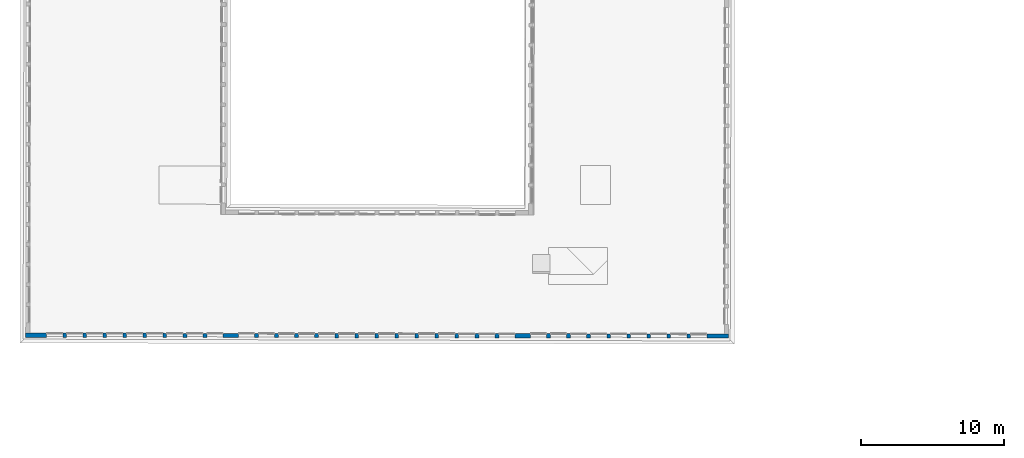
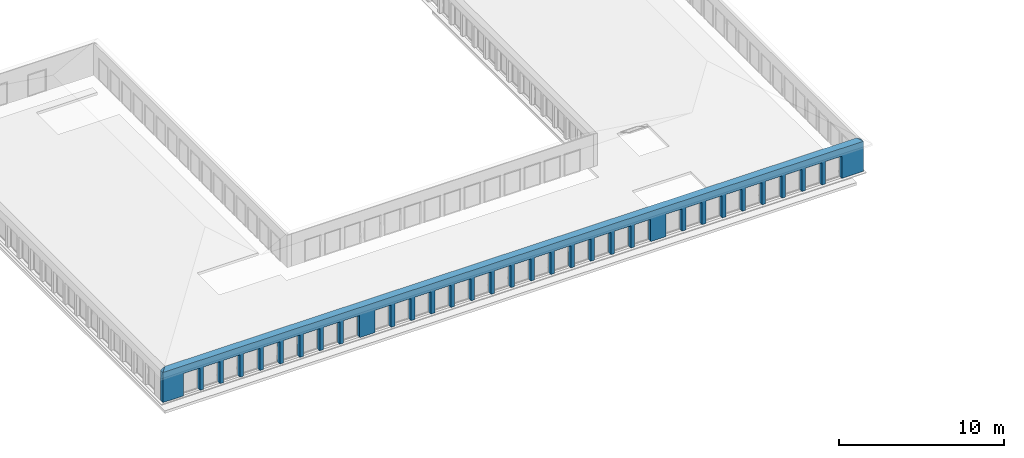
# One storey, part 25 of 26: 1 wall.
"""IFC2X3 building model written with IfcOpenShell, lengths in metres."""

from ifc_helpers import new_model, entity, si_unit, converted_unit, derived_unit, direction, frame, origin, place, context, subcontext, project, spatial, faceted_brep, material, layer, layer_set, type_object, element, save


model = new_model("IFC2X3")

# Units and contexts
model_context = context("Model", 3, precision=1e-05, world=origin(), true_north=direction((6.123233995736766e-17, 1.0)))
body_context = subcontext(model_context, "Body", "Model", "MODEL_VIEW")
ifc_project = project(units=[si_unit("LENGTHUNIT", "METRE"), si_unit("AREAUNIT", "SQUARE_METRE"), converted_unit("PLANEANGLEUNIT", "DEGREE", entity("IfcPlaneAngleMeasure", 0.017453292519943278), si_unit("PLANEANGLEUNIT", "RADIAN"), dimensions=[0, 0, 0, 0, 0, 0, 0]), derived_unit("THERMALTRANSMITTANCEUNIT", [(si_unit("MASSUNIT", "GRAM", prefix="KILO"), 1), (si_unit("THERMODYNAMICTEMPERATUREUNIT", "KELVIN"), -1), (si_unit("TIMEUNIT", "SECOND"), -3)])], contexts=[model_context])

# Site, building, storey
site_placement = place(None, frame((1253.6752467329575, 2072.143113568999, 91.49999999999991), z_axis=(0.0, 0.0, 1.0), x_axis=(0.7237211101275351, 0.6900925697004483, 0.0)))
site = spatial("IfcSite", under=ifc_project, at=site_placement, Name="Surface", CompositionType="ELEMENT")
building_placement = place(site_placement, origin())
building = spatial("IfcBuilding", under=site, at=building_placement, CompositionType="ELEMENT")
storey_placement = place(building_placement, frame((0.0, 0.0, 7.0)))
storey = spatial("IfcBuildingStorey", under=building, at=storey_placement, Name="2-R+2", CompositionType="ELEMENT", Elevation=6.999999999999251)

# Wall
ifc_material = material(Name="OMD_Béton blanc")
ifc_layer = layer(ifc_material, 0.29999999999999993)
ifc_layer_set = layer_set([ifc_layer], Name="Mur de base:MUR 30")
wall_type = type_object("IfcWallType", Name="Mur de base:MUR 30", PredefinedType="STANDARD", material=ifc_layer_set)
wall_placement = place(storey_placement, frame((179.40471630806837, -29.55080083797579, 0.9000000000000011), z_axis=(0.0, 0.0, 1.0), x_axis=(-0.7228702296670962, 0.6909838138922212, 0.0)))
element("IfcWall", 1, at=wall_placement, inside=storey, type_object=wall_type, Name="Mur de base:MUR 30", ObjectType="Mur de base:MUR 30", context=body_context, shape_type="Brep", body=[
    faceted_brep([(0.0, -0.15000000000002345, 2.2322075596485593), (0.0, -0.15000000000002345, 0.0), (0.29999999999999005, -0.1500000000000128, 0.0), (1.5100634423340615, -0.15000000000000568, 0.0), (1.5100634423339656, -0.1500000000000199, 1.6499999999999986), (2.6500634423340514, -0.15000000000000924, 1.6499999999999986), (2.650063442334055, -0.1500000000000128, 0.0), (2.9100621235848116, -0.150000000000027, 0.0), (2.910062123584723, -0.15000000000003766, 1.6499999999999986), (4.05006212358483, -0.15000000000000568, 1.6499999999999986), (4.050062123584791, -0.15000000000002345, 0.0), (4.310060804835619, -0.15000000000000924, 0.0), (4.310060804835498, -0.15000000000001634, 1.6499999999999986), (5.45006080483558, -0.15000000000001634, 1.6499999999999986), (5.450060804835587, -0.1500000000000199, 0.0), (5.710059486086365, -0.14999999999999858, 0.0), (5.710059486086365, -0.14999999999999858, 1.6499999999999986), (6.850059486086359, -0.15000000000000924, 1.6499999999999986), (6.850059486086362, -0.1500000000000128, 0.0), (7.110058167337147, -0.1500000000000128, 0.0), (7.110058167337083, -0.1500000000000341, 1.6499999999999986), (8.250058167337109, -0.1500000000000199, 1.6499999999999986), (8.250058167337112, -0.1500000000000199, 0.0), (8.51005684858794, -0.15000000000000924, 0.0), (8.510056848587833, -0.150000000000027, 1.6499999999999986), (9.650056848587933, -0.15000000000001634, 1.6499999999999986), (9.650056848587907, -0.1500000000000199, 0.0), (9.910055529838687, -0.1500000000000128, 0.0), (9.910055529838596, -0.1500000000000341, 1.6499999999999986), (11.050055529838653, -0.15000000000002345, 1.6499999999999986), (11.050055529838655, -0.15000000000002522, 0.0), (11.310266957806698, -0.15000000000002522, 0.0), (11.310266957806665, -0.15000000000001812, 1.6499999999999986), (12.450266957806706, -0.1500000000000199, 1.6499999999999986), (12.450266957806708, -0.15000000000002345, 0.0), (12.71026563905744, -0.15000000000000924, 0.0), (12.710265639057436, -0.15000000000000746, 1.6499999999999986), (13.850265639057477, -0.15000000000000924, 1.6499999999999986), (13.85026563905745, -0.15000000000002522, 0.0), (14.910284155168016, -0.15000000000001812, 0.0), (14.910284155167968, -0.15000000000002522, 1.6499999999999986), (16.050284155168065, -0.15000000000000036, 1.6499999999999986), (16.050284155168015, -0.15000000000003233, 0.0), (16.310289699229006, -0.15000000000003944, 0.0), (16.31028969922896, -0.15000000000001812, 1.6499999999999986), (17.450289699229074, -0.1500000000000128, 1.6499999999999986), (17.45028969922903, -0.15000000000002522, 0.0), (17.71028838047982, -0.1500000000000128, 0.0), (17.710288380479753, -0.15000000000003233, 1.6499999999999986), (18.850288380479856, -0.15000000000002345, 1.6499999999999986), (18.85028838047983, -0.15000000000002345, 0.0), (19.110287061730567, -0.15000000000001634, 0.0), (19.11028706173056, -0.15000000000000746, 1.6499999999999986), (20.250287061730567, -0.1500000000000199, 1.6499999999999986), (20.250287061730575, -0.15000000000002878, 0.0), (20.51028574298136, -0.15000000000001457, 0.0), (20.510285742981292, -0.15000000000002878, 1.6499999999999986), (21.650285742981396, -0.15000000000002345, 1.6499999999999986), (21.650285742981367, -0.15000000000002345, 0.0), (21.910298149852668, -0.15000000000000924, 0.0), (21.910298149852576, -0.15000000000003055, 1.6499999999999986), (23.05029814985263, -0.15000000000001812, 1.6499999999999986), (23.050298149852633, -0.15000000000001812, 0.0), (23.31029683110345, -0.15000000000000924, 0.0), (23.310296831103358, -0.1500000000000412, 1.6499999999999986), (24.450296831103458, -0.15000000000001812, 1.6499999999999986), (24.45029683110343, -0.15000000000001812, 0.0), (24.710295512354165, -0.15000000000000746, 0.0), (24.710295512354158, -0.1500000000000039, 1.6499999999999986), (25.850295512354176, -0.15000000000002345, 1.6499999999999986), (25.850295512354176, -0.15000000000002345, 0.0), (26.110294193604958, -0.1500000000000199, 0.0), (26.11029419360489, -0.15000000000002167, 1.6499999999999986), (27.250294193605, -0.15000000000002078, 1.6499999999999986), (27.250294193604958, -0.15000000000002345, 0.0), (27.510292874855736, -0.15000000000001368, 0.0), (27.5102928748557, -0.1500000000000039, 1.6499999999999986), (28.650292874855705, -0.1500000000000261, 1.6499999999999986), (28.650292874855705, -0.1500000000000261, 0.0), (28.91030528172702, -0.1500000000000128, 0.0), (28.910305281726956, -0.15000000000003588, 1.6499999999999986), (30.050305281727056, -0.1500000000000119, 1.6499999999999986), (30.050305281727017, -0.150000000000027, 0.0), (30.310303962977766, -0.150000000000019, 0.0), (30.3103039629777, -0.15000000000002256, 1.6499999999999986), (31.450303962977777, -0.15000000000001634, 1.6499999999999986), (31.450303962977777, -0.15000000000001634, 0.0), (31.710302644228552, -0.15000000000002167, 0.0), (31.71030264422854, -0.15000000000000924, 1.6499999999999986), (32.85030264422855, -0.15000000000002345, 1.6499999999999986), (32.85030264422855, -0.1500000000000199, 0.0), (33.11030132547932, -0.15000000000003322, 0.0), (33.11030132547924, -0.15000000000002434, 1.6499999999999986), (34.25030132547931, -0.15000000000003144, 1.6499999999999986), (34.2503013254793, -0.15000000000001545, 0.0), (35.31029925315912, -0.150000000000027, 0.0), (35.310299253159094, -0.15000000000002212, 1.6499999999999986), (36.450299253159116, -0.15000000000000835, 1.6499999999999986), (36.4502992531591, -0.15000000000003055, 0.0), (36.71029793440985, -0.15000000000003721, 0.0), (36.71029793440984, -0.1500000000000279, 1.6499999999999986), (37.850297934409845, -0.150000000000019, 1.6499999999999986), (37.85029793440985, -0.15000000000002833, 0.0), (38.110296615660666, -0.15000000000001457, 0.0), (38.11029661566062, -0.1500000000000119, 1.6499999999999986), (39.25029661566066, -0.15000000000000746, 1.6499999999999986), (39.25029661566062, -0.15000000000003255, 0.0), (39.51030902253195, -0.15000000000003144, 0.0), (39.51030902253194, -0.150000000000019, 1.6499999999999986), (40.650309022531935, -0.15000000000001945, 1.6499999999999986), (40.650309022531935, -0.15000000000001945, 0.0), (40.91030770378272, -0.15000000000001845, 0.0), (40.9103077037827, -0.15000000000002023, 1.6499999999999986), (42.050307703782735, -0.15000000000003, 1.6499999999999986), (42.050307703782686, -0.1500000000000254, 0.0), (42.31032011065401, -0.15000000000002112, 0.0), (42.310320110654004, -0.15000000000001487, 1.6499999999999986), (43.45032011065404, -0.15000000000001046, 1.6499999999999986), (43.450320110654, -0.1500000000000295, 0.0), (43.71031879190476, -0.15000000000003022, 0.0), (43.71031879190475, -0.15000000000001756, 1.6499999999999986), (44.850318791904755, -0.150000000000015, 1.6499999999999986), (44.850318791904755, -0.150000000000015, 0.0), (45.11031747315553, -0.15000000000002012, 0.0), (45.11031747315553, -0.15000000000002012, 1.6499999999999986), (46.250317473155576, -0.15000000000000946, 1.6499999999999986), (46.25031747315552, -0.15000000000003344, 0.0), (46.51031615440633, -0.15000000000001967, 0.0), (46.5103161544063, -0.15000000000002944, 1.6499999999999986), (47.65031615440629, -0.15000000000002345, 1.6499999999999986), (47.65031615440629, -0.15000000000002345, 0.0), (48.79855988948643, -0.15000000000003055, 0.0), (49.09855989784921, -0.150000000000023, 0.0), (49.09855989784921, -0.150000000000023, 2.232207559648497), (48.79855988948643, -0.15000000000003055, 2.4065314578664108), (0.29999999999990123, -0.1500000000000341, 2.406531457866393), (0.0, 0.14999999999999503, 2.2322075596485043), (49.098630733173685, 0.14999999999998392, 2.2322075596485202), (49.09863073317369, 0.14999999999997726, 0.0), (47.65031615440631, 0.14999999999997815, 0.0), (47.650316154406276, 0.14999999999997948, 1.6499999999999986), (46.51031615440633, 0.14999999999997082, 1.6500000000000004), (46.510316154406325, 0.14999999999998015, 0.0), (46.250317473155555, 0.14999999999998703, 0.0), (46.250317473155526, 0.1499999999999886, 1.6499999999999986), (45.11031747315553, 0.14999999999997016, 1.6499999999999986), (45.11031747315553, 0.1499999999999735, 0.0), (44.85031879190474, 0.1499999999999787, 0.0), (44.85031879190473, 0.14999999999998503, 1.6499999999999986), (43.71031879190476, 0.14999999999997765, 1.6499999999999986), (43.71031879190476, 0.14999999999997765, 0.0), (43.45032011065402, 0.14999999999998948, 0.0), (43.45032011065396, 0.14999999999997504, 1.6499999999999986), (42.310320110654, 0.14999999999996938, 1.6499999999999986), (42.31032011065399, 0.14999999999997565, 0.0), (42.05030770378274, 0.1499999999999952, 0.0), (42.05030770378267, 0.14999999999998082, 1.6499999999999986), (40.91030770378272, 0.14999999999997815, 1.6499999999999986), (40.91030770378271, 0.14999999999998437, 0.0), (40.65030902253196, 0.14999999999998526, 0.0), (40.65030902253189, 0.1499999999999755, 1.6499999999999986), (39.51030902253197, 0.14999999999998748, 1.6499999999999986), (39.51030902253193, 0.1499999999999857, 0.0), (39.250296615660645, 0.14999999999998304, 0.0), (39.25029661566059, 0.1499999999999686, 1.6499999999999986), (38.11029661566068, 0.14999999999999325, 1.6499999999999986), (38.11029661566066, 0.14999999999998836, 0.0), (37.85029793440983, 0.1499999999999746, 0.0), (37.850297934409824, 0.14999999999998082, 1.6499999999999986), (36.71029793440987, 0.14999999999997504, 1.6499999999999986), (36.710297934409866, 0.14999999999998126, 0.0), (36.45029925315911, 0.14999999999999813, 0.0), (36.45029925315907, 0.1499999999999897, 1.6499999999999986), (35.31029925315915, 0.14999999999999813, 1.6499999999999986), (35.310299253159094, 0.1499999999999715, 0.0), (34.25030132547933, 0.14999999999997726, 0.0), (34.2503013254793, 0.1499999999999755, 1.6499999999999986), (33.1103013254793, 0.14999999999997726, 1.6499999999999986), (33.11030132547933, 0.14999999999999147, 0.0), (32.85030264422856, 0.14999999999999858, 0.0), (32.85030264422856, 0.14999999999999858, 1.6499999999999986), (31.710302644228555, 0.14999999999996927, 1.6499999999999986), (31.71030264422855, 0.14999999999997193, 0.0), (31.450303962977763, 0.1499999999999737, 0.0), (31.450303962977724, 0.14999999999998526, 1.6499999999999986), (30.310303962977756, 0.14999999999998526, 1.6500000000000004), (30.310303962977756, 0.14999999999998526, 0.0), (30.05030528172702, 0.1499999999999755, 0.0), (30.050305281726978, 0.14999999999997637, 1.6499999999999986), (28.910305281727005, 0.14999999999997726, 1.6499999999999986), (28.910305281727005, 0.14999999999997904, 0.0), (28.65029287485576, 0.14999999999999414, 0.0), (28.650292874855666, 0.14999999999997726, 1.6499999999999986), (27.510292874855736, 0.14999999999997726, 1.6499999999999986), (27.510292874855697, 0.14999999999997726, 0.0), (27.250294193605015, 0.14999999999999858, 0.0), (27.25029419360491, 0.14999999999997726, 1.6499999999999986), (26.110294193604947, 0.14999999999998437, 1.6499999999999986), (26.110294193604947, 0.14999999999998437, 0.0), (25.850295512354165, 0.1499999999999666, 0.0), (25.850295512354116, 0.14999999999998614, 1.6499999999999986), (24.710295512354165, 0.1499999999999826, 1.6499999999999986), (24.710295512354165, 0.1499999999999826, 0.0), (24.450296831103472, 0.15000000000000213, 0.0), (24.45029683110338, 0.1499999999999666, 1.6499999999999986), (23.31029683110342, 0.1499999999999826, 1.6499999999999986), (23.310296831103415, 0.1499999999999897, 0.0), (23.050298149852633, 0.1499999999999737, 0.0), (23.05029814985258, 0.1499999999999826, 1.6499999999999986), (21.91029814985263, 0.14999999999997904, 1.6499999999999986), (21.910298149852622, 0.14999999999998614, 0.0), (21.650285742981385, 0.14999999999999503, 0.0), (21.650285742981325, 0.14999999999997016, 1.6499999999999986), (20.510285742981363, 0.14999999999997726, 1.6499999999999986), (20.51028574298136, 0.1499999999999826, 0.0), (20.250287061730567, 0.14999999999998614, 0.0), (20.250287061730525, 0.1499999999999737, 1.6499999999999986), (19.110287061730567, 0.1499999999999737, 1.6499999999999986), (19.110287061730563, 0.14999999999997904, 0.0), (18.850288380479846, 0.1499999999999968, 0.0), (18.85028838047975, 0.14999999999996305, 1.6499999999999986), (17.710288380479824, 0.14999999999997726, 1.6499999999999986), (17.710288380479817, 0.14999999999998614, 0.0), (17.450289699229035, 0.14999999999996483, 0.0), (17.450289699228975, 0.1499999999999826, 1.6499999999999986), (16.310289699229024, 0.14999999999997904, 1.6499999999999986), (16.31028969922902, 0.14999999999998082, 0.0), (16.050284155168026, 0.1499999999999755, 0.0), (16.050284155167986, 0.14999999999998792, 1.6499999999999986), (14.910284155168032, 0.14999999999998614, 1.6499999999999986), (14.910284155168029, 0.14999999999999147, 0.0), (13.850265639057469, 0.14999999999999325, 0.0), (13.850265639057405, 0.14999999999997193, 1.6499999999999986), (12.7102656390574, 0.14999999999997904, 1.6499999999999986), (12.710265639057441, 0.14999999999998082, 0.0), (12.45026695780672, 0.14999999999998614, 0.0), (12.450266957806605, 0.1499999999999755, 1.6499999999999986), (11.3102669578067, 0.14999999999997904, 1.6499999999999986), (11.310266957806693, 0.14999999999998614, 0.0), (11.050055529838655, 0.14999999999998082, 0.0), (11.050055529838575, 0.14999999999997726, 1.6499999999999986), (9.910055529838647, 0.14999999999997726, 1.6499999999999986), (9.910055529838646, 0.14999999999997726, 0.0), (9.650056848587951, 0.14999999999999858, 0.0), (9.650056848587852, 0.14999999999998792, 1.6499999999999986), (8.510056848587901, 0.14999999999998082, 1.6499999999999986), (8.510056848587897, 0.14999999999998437, 0.0), (8.250058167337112, 0.14999999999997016, 0.0), (8.250058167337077, 0.14999999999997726, 1.6499999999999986), (7.110058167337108, 0.14999999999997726, 1.6499999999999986), (7.110058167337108, 0.14999999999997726, 0.0), (6.850059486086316, 0.14999999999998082, 0.0), (6.8500594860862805, 0.14999999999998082, 1.6499999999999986), (5.710059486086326, 0.14999999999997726, 1.6499999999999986), (5.710059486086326, 0.14999999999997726, 0.0), (5.450060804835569, 0.1499999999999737, 0.0), (5.450060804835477, 0.14999999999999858, 1.6499999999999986), (4.310060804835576, 0.14999999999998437, 1.6499999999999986), (4.310060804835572, 0.14999999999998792, 0.0), (4.050062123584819, 0.14999999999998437, 0.0), (4.0500621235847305, 0.14999999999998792, 1.6499999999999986), (2.9100621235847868, 0.14999999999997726, 1.6499999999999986), (2.9100621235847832, 0.14999999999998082, 0.0), (2.650063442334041, 0.14999999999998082, 0.0), (2.6500634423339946, 0.14999999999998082, 1.6499999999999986), (1.5100634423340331, 0.14999999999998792, 1.6499999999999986), (1.5100634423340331, 0.14999999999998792, 0.0), (0.0, 0.14999999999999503, 0.0)], [[[0, 1, 2, 3, 4, 5, 6, 7, 8, 9, 10, 11, 12, 13, 14, 15, 16, 17, 18, 19, 20, 21, 22, 23, 24, 25, 26, 27, 28, 29, 30, 31, 32, 33, 34, 35, 36, 37, 38, 39, 40, 41, 42, 43, 44, 45, 46, 47, 48, 49, 50, 51, 52, 53, 54, 55, 56, 57, 58, 59, 60, 61, 62, 63, 64, 65, 66, 67, 68, 69, 70, 71, 72, 73, 74, 75, 76, 77, 78, 79, 80, 81, 82, 83, 84, 85, 86, 87, 88, 89, 90, 91, 92, 93, 94, 95, 96, 97, 98, 99, 100, 101, 102, 103, 104, 105, 106, 107, 108, 109, 110, 111, 112, 113, 114, 115, 116, 117, 118, 119, 120, 121, 122, 123, 124, 125, 126, 127, 128, 129, 130, 131, 132, 133, 134, 135]], [[136, 137, 138, 139, 140, 141, 142, 143, 144, 145, 146, 147, 148, 149, 150, 151, 152, 153, 154, 155, 156, 157, 158, 159, 160, 161, 162, 163, 164, 165, 166, 167, 168, 169, 170, 171, 172, 173, 174, 175, 176, 177, 178, 179, 180, 181, 182, 183, 184, 185, 186, 187, 188, 189, 190, 191, 192, 193, 194, 195, 196, 197, 198, 199, 200, 201, 202, 203, 204, 205, 206, 207, 208, 209, 210, 211, 212, 213, 214, 215, 216, 217, 218, 219, 220, 221, 222, 223, 224, 225, 226, 227, 228, 229, 230, 231, 232, 233, 234, 235, 236, 237, 238, 239, 240, 241, 242, 243, 244, 245, 246, 247, 248, 249, 250, 251, 252, 253, 254, 255, 256, 257, 258, 259, 260, 261, 262, 263, 264, 265, 266, 267]], [[138, 132, 131, 130, 139]], [[1, 0, 136, 267]], [[133, 132, 138, 137]], [[265, 4, 3, 266]], [[4, 265, 264, 5]], [[5, 264, 263, 6]], [[261, 8, 7, 262]], [[8, 261, 260, 9]], [[9, 260, 259, 10]], [[257, 12, 11, 258]], [[12, 257, 256, 13]], [[13, 256, 255, 14]], [[253, 16, 15, 254]], [[16, 253, 252, 17]], [[17, 252, 251, 18]], [[249, 20, 19, 250]], [[20, 249, 248, 21]], [[21, 248, 247, 22]], [[245, 24, 23, 246]], [[24, 245, 244, 25]], [[25, 244, 243, 26]], [[241, 28, 27, 242]], [[28, 241, 240, 29]], [[29, 240, 239, 30]], [[237, 32, 31, 238]], [[32, 237, 236, 33]], [[33, 236, 235, 34]], [[233, 36, 35, 234]], [[36, 233, 232, 37]], [[37, 232, 231, 38]], [[229, 40, 39, 230]], [[40, 229, 228, 41]], [[41, 228, 227, 42]], [[225, 44, 43, 226]], [[44, 225, 224, 45]], [[45, 224, 223, 46]], [[221, 48, 47, 222]], [[48, 221, 220, 49]], [[49, 220, 219, 50]], [[217, 52, 51, 218]], [[52, 217, 216, 53]], [[53, 216, 215, 54]], [[213, 56, 55, 214]], [[56, 213, 212, 57]], [[57, 212, 211, 58]], [[209, 60, 59, 210]], [[60, 209, 208, 61]], [[61, 208, 207, 62]], [[205, 64, 63, 206]], [[64, 205, 204, 65]], [[65, 204, 203, 66]], [[201, 68, 67, 202]], [[68, 201, 200, 69]], [[69, 200, 199, 70]], [[197, 72, 71, 198]], [[72, 197, 196, 73]], [[73, 196, 195, 74]], [[193, 76, 75, 194]], [[76, 193, 192, 77]], [[77, 192, 191, 78]], [[189, 80, 79, 190]], [[80, 189, 188, 81]], [[81, 188, 187, 82]], [[185, 84, 83, 186]], [[84, 185, 184, 85]], [[85, 184, 183, 86]], [[181, 88, 87, 182]], [[88, 181, 180, 89]], [[89, 180, 179, 90]], [[177, 92, 91, 178]], [[92, 177, 176, 93]], [[93, 176, 175, 94]], [[173, 96, 95, 174]], [[96, 173, 172, 97]], [[97, 172, 171, 98]], [[169, 100, 99, 170]], [[100, 169, 168, 101]], [[101, 168, 167, 102]], [[165, 104, 103, 166]], [[104, 165, 164, 105]], [[105, 164, 163, 106]], [[161, 108, 107, 162]], [[108, 161, 160, 109]], [[109, 160, 159, 110]], [[157, 112, 111, 158]], [[112, 157, 156, 113]], [[113, 156, 155, 114]], [[153, 116, 115, 154]], [[116, 153, 152, 117]], [[117, 152, 151, 118]], [[149, 120, 119, 150]], [[120, 149, 148, 121]], [[121, 148, 147, 122]], [[145, 124, 123, 146]], [[124, 145, 144, 125]], [[125, 144, 143, 126]], [[141, 128, 127, 142]], [[128, 141, 140, 129]], [[129, 140, 139, 130]], [[136, 0, 135]], [[137, 136, 135, 134]], [[133, 137, 134]], [[126, 143, 142, 127]], [[122, 147, 146, 123]], [[118, 151, 150, 119]], [[114, 155, 154, 115]], [[110, 159, 158, 111]], [[106, 163, 162, 107]], [[102, 167, 166, 103]], [[98, 171, 170, 99]], [[94, 175, 174, 95]], [[90, 179, 178, 91]], [[86, 183, 182, 87]], [[82, 187, 186, 83]], [[78, 191, 190, 79]], [[74, 195, 194, 75]], [[70, 199, 198, 71]], [[66, 203, 202, 67]], [[62, 207, 206, 63]], [[58, 211, 210, 59]], [[54, 215, 214, 55]], [[50, 219, 218, 51]], [[46, 223, 222, 47]], [[42, 227, 226, 43]], [[38, 231, 230, 39]], [[34, 235, 234, 35]], [[30, 239, 238, 31]], [[26, 243, 242, 27]], [[22, 247, 246, 23]], [[18, 251, 250, 19]], [[14, 255, 254, 15]], [[10, 259, 258, 11]], [[6, 263, 262, 7]], [[1, 267, 266, 3, 2]]]),
])

save(model, "model.ifc")
